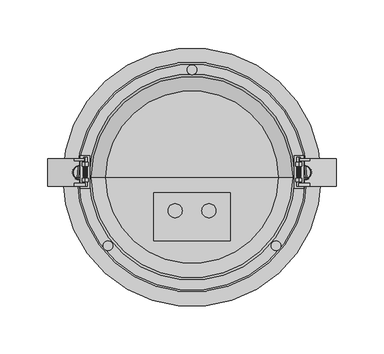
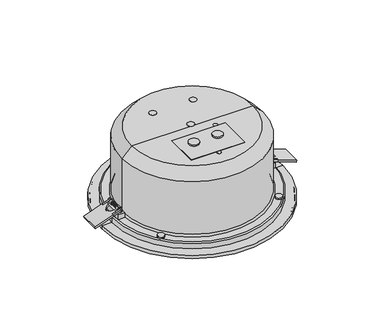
"""IFC4 building model written with IfcOpenShell, lengths in millimetres: proxy geometry, 221216 BIM Data_DL-SE20-200T-EN54 : DL-SE 20-200/T-EN54."""

from ifc_helpers import new_model, si_unit, point, frame, frame_2d, origin, origin_with_axes, origin_2d, place, context, project, spatial, polyline, circle_curve, ellipse_curve, trimmed, segment, composite_curve, outline, extrude, source, transform, mapped, element, save
from ifc_brep_helpers import plane_surface, cylinder_surface, revolved_surface, advanced_brep


def communication_devices_1a25a5fd(model_context):
    return source(origin(), model_context, "Body", "SolidModel", [
        extrude(outline(polyline([(15.4609827, 0.0), (15.4609827, -2.1737459), (3.366834, -2.1737459), (3.366834, 0.0), (15.4609827, 0.0)])), frame((-125.5161348, 19.0480556, 19.4983454), z_axis=(-0.33142854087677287, 0.0, 0.9434803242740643), x_axis=(0.9434803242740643, 0.0, 0.33142854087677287)), (0.0, 0.0, 1.0), 2.9860826),
        extrude(outline(polyline([(15.5825119, -28.3903286), (3.520211, -28.3903286), (3.520211, -25.5915826), (15.5825119, -25.5915826), (15.5825119, -28.3903286)])), frame((-125.5161348, 19.0480556, 19.4983454), z_axis=(-0.33142854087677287, 0.0, 0.9434803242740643), x_axis=(0.9434803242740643, 0.0, 0.33142854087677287)), (0.0, 0.0, 1.0), 2.9860826),
        extrude(outline(composite_curve([segment(polyline([(-3.1168591, 0.0), (-3.1168591, -34.6971322), (-9.9918591, -34.6971322)]), True, "CONTINUOUS"), segment(trimmed(circle_curve(frame_2d((-17.4918591, -34.6971322)), 7.5), [point((-9.9918591, -34.6971322))], [point((-24.9918591, -34.6971322))], True, "CARTESIAN"), True, "CONTINUOUS"), segment(polyline([(-24.9918591, -34.6971322), (-31.5071877, -34.6971322), (-31.5071877, 0.0), (-3.1168591, 0.0)]), True, "CONTINUOUS")], self_intersect=False)), frame((-149.7019059, 22.1649147, 11.0022967), z_axis=(-0.33142854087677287, 0.0, 0.9434803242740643), x_axis=(0.0, 1.0, 0.0)), (0.0, 0.0, 1.0), 2.9860826),
        extrude(outline(polyline([(-107.0368173, -11.842273), (-117.0368173, -11.842273), (-117.0368173, 22.1730556), (-107.0368173, 22.1730556), (-107.0368173, -11.842273)])), frame((0.0, 0.0, 15.1034024), z_axis=(0.0, 0.0, 1.0), x_axis=(1.0, 0.0, 0.0)), (0.0, 0.0, 1.0), 7.5348139),
        advanced_brep(
        [(-111.4871576, -0.9236243, 22.5267111), (-111.4871576, -0.9236243, 28.744995), (-111.4871576, -4.9366566, 28.744995), (-111.4871576, -4.9366566, 22.5267111), (-111.4871576, -4.9366566, 27.5535795), (-111.4871576, -4.9366566, 23.7181266), (-111.4871576, -9.6311377, 27.5535795), (-111.4871576, -9.6311377, 23.7181266), (-111.4871576, -9.6311377, 25.635853), (-111.4871576, 20.7938537, 25.635853), (-111.4871576, 20.7938537, 27.5535795), (-111.4871576, 20.7938537, 23.7181266), (-111.4871576, 15.3862869, 27.5535795), (-111.4871576, 15.3862869, 23.7181266), (-111.4871576, 15.3862869, 28.744995), (-111.4871576, 15.3862869, 22.5267111), (-111.4871576, 11.4071029, 28.744995), (-111.4871576, 11.4071029, 22.5267111), (-111.4871576, 11.4071029, 26.5290407), (-111.4871576, 11.4071029, 24.7426654), (-111.4871576, -0.9236243, 26.5290407), (-111.4871576, -0.9236243, 24.7426654)],
        [
            (0, 1, circle_curve(frame((-111.4871576, -0.9236243, 25.635853), z_axis=(0.0, -1.0, 0.0), x_axis=(0.0, 0.0, 1.0)), 3.109142)),
            (1, 2),
            (2, 3, circle_curve(frame((-111.4871576, -4.9366566, 25.635853), z_axis=(0.0, 1.0, 0.0), x_axis=(0.0, 0.0, 1.0)), 3.109142)),
            (3, 0),
            (1, 0, circle_curve(frame((-111.4871576, -0.9236243, 25.635853), z_axis=(0.0, -1.0, 0.0), x_axis=(0.0, 0.0, 1.0)), 3.109142)),
            (3, 2, circle_curve(frame((-111.4871576, -4.9366566, 25.635853), z_axis=(0.0, 1.0, 0.0), x_axis=(0.0, 0.0, 1.0)), 3.109142)),
            (2, 4),
            (4, 5, circle_curve(frame((-111.4871576, -4.9366566, 25.635853), z_axis=(0.0, 1.0, 0.0), x_axis=(0.0, 0.0, 1.0)), 1.9177265)),
            (5, 3),
            (5, 4, circle_curve(frame((-111.4871576, -4.9366566, 25.635853), z_axis=(0.0, 1.0, 0.0), x_axis=(0.0, 0.0, 1.0)), 1.9177265)),
            (4, 6),
            (6, 7, circle_curve(frame((-111.4871576, -9.6311377, 25.635853), z_axis=(0.0, 1.0, 0.0), x_axis=(0.0, 0.0, 1.0)), 1.9177265)),
            (7, 5),
            (7, 6, circle_curve(frame((-111.4871576, -9.6311377, 25.635853), z_axis=(0.0, 1.0, 0.0), x_axis=(0.0, 0.0, 1.0)), 1.9177265)),
            (6, 8),
            (8, 7),
            (9, 10),
            (10, 11, circle_curve(frame((-111.4871576, 20.7938537, 25.635853), z_axis=(0.0, 1.0, 0.0), x_axis=(0.0, 0.0, 1.0)), 1.9177265)),
            (11, 9),
            (11, 10, circle_curve(frame((-111.4871576, 20.7938537, 25.635853), z_axis=(0.0, 1.0, 0.0), x_axis=(0.0, 0.0, 1.0)), 1.9177265)),
            (10, 12),
            (12, 13, circle_curve(frame((-111.4871576, 15.3862869, 25.635853), z_axis=(0.0, 1.0, 0.0), x_axis=(0.0, 0.0, 1.0)), 1.9177265)),
            (13, 11),
            (13, 12, circle_curve(frame((-111.4871576, 15.3862869, 25.635853), z_axis=(0.0, 1.0, 0.0), x_axis=(0.0, 0.0, 1.0)), 1.9177265)),
            (12, 14),
            (14, 15, circle_curve(frame((-111.4871576, 15.3862869, 25.635853), z_axis=(0.0, 1.0, 0.0), x_axis=(0.0, 0.0, 1.0)), 3.109142)),
            (15, 13),
            (15, 14, circle_curve(frame((-111.4871576, 15.3862869, 25.635853), z_axis=(0.0, 1.0, 0.0), x_axis=(0.0, 0.0, 1.0)), 3.109142)),
            (14, 16),
            (16, 17, circle_curve(frame((-111.4871576, 11.4071029, 25.635853), z_axis=(0.0, 1.0, 0.0), x_axis=(0.0, 0.0, 1.0)), 3.109142)),
            (17, 15),
            (17, 16, circle_curve(frame((-111.4871576, 11.4071029, 25.635853), z_axis=(0.0, 1.0, 0.0), x_axis=(0.0, 0.0, 1.0)), 3.109142)),
            (16, 18),
            (18, 19, circle_curve(frame((-111.4871576, 11.4071029, 25.635853), z_axis=(0.0, 1.0, 0.0), x_axis=(0.0, 0.0, 1.0)), 0.8931877)),
            (19, 17),
            (19, 18, circle_curve(frame((-111.4871576, 11.4071029, 25.635853), z_axis=(0.0, 1.0, 0.0), x_axis=(0.0, 0.0, 1.0)), 0.8931877)),
            (18, 20),
            (20, 21, circle_curve(frame((-111.4871576, -0.9236243, 25.635853), z_axis=(0.0, 1.0, 0.0), x_axis=(0.0, 0.0, 1.0)), 0.8931877)),
            (21, 19),
            (21, 20, circle_curve(frame((-111.4871576, -0.9236243, 25.635853), z_axis=(0.0, 1.0, 0.0), x_axis=(0.0, 0.0, 1.0)), 0.8931877)),
            (20, 1),
            (0, 21),
        ],
        [
            cylinder_surface(frame((-111.4871576, 4.5413883, 25.635853), z_axis=(0.0, 1.0, 0.0), x_axis=(0.0, 0.0, 1.0)), 3.109142),
            plane_surface(frame((-111.4871576, -4.9366566, 25.635853), z_axis=(0.0, -1.0, 0.0), x_axis=(0.0, 0.0, 1.0))),
            cylinder_surface(frame((-111.4871576, 4.5413883, 25.635853), z_axis=(0.0, 1.0, 0.0), x_axis=(0.0, 0.0, 1.0)), 1.9177265),
            plane_surface(frame((-111.4871576, -9.6311377, 25.635853), z_axis=(0.0, -1.0, 0.0), x_axis=(0.0, 0.0, 1.0))),
            plane_surface(frame((-111.4871576, 20.7938537, 25.635853), z_axis=(0.0, 1.0, 0.0), x_axis=(0.0, 0.0, 1.0))),
            plane_surface(frame((-111.4871576, 15.3862869, 25.635853), z_axis=(0.0, 1.0, 0.0), x_axis=(0.0, 0.0, 1.0))),
            plane_surface(frame((-111.4871576, 11.4071029, 25.635853), z_axis=(0.0, -1.0, 0.0), x_axis=(0.0, 0.0, 1.0))),
            cylinder_surface(frame((-111.4871576, 4.5413883, 25.635853), z_axis=(0.0, 1.0, 0.0), x_axis=(0.0, 0.0, 1.0)), 0.8931877),
            plane_surface(frame((-111.4871576, -0.9236243, 25.635853), z_axis=(0.0, 1.0, 0.0), x_axis=(0.0, 0.0, 1.0))),
        ],
        [
            (0, [[1, 2, 3, 4]]),
            (0, [[5, -4, 6, -2]]),
            (1, [[-3, 7, 8, 9]]),
            (1, [[-6, -9, 10, -7]]),
            (2, [[-8, 11, 12, 13]]),
            (2, [[-10, -13, 14, -11]]),
            (3, [[-12, 15, 16]]),
            (3, [[-14, -16, -15]]),
            (4, [[17, 18, 19]]),
            (4, [[-19, 20, -17]]),
            (2, [[-18, 21, 22, 23]]),
            (2, [[-20, -23, 24, -21]]),
            (5, [[-22, 25, 26, 27]]),
            (5, [[-24, -27, 28, -25]]),
            (0, [[-26, 29, 30, 31]]),
            (0, [[-28, -31, 32, -29]]),
            (6, [[-30, 33, 34, 35]]),
            (6, [[-32, -35, 36, -33]]),
            (7, [[-34, 37, 38, 39]]),
            (7, [[-36, -39, 40, -37]]),
            (8, [[-38, 41, -1, 42]]),
            (8, [[-40, -42, -5, -41]]),
        ],
    ),
        extrude(outline(composite_curve([segment(trimmed(circle_curve(frame_2d((25.7629558, -111.4710507)), 2.2114931), [point((25.7629558, -113.6825438))], [point((25.7629558, -109.2595577))], False, "CARTESIAN"), True, "CONTINUOUS"), segment(trimmed(circle_curve(frame_2d((25.7629558, -111.4710507)), 2.2114931), [point((25.7629558, -109.2595577))], [point((25.7629558, -113.6825438))], False, "CARTESIAN"), True, "CONTINUOUS")], self_intersect=False), holes=[composite_curve([segment(trimmed(circle_curve(frame_2d((25.7629558, -111.4710507)), 1.6197878), [point((25.7629558, -113.0908386))], [point((25.7629558, -109.8512629))], True, "CARTESIAN"), True, "CONTINUOUS"), segment(trimmed(circle_curve(frame_2d((25.7629558, -111.4710507)), 1.6197878), [point((25.7629558, -109.8512629))], [point((25.7629558, -113.0908386))], True, "CARTESIAN"), True, "CONTINUOUS")], self_intersect=False)]), frame((0.0, 9.6929722, 0.0), z_axis=(0.0, 1.0, 0.0), x_axis=(0.0, 0.0, 1.0)), (0.0, 0.0, 1.0), 0.7554192),
        extrude(outline(composite_curve([segment(trimmed(circle_curve(frame_2d((25.7629558, -111.4710507)), 2.2114931), [point((25.7629558, -113.6825438))], [point((25.7629558, -109.2595577))], False, "CARTESIAN"), True, "CONTINUOUS"), segment(trimmed(circle_curve(frame_2d((25.7629558, -111.4710507)), 2.2114931), [point((25.7629558, -109.2595577))], [point((25.7629558, -113.6825438))], False, "CARTESIAN"), True, "CONTINUOUS")], self_intersect=False), holes=[composite_curve([segment(trimmed(circle_curve(frame_2d((25.7629558, -111.4710507)), 1.6197878), [point((25.7629558, -113.0908386))], [point((25.7629558, -109.8512629))], True, "CARTESIAN"), True, "CONTINUOUS"), segment(trimmed(circle_curve(frame_2d((25.7629558, -111.4710507)), 1.6197878), [point((25.7629558, -109.8512629))], [point((25.7629558, -113.0908386))], True, "CARTESIAN"), True, "CONTINUOUS")], self_intersect=False)]), frame((0.0, 8.6626554, 0.0), z_axis=(0.0, 1.0, 0.0), x_axis=(0.0, 0.0, 1.0)), (0.0, 0.0, 1.0), 0.7554192),
        extrude(outline(composite_curve([segment(trimmed(circle_curve(frame_2d((25.7629558, -111.4710507)), 2.2114931), [point((25.7629558, -113.6825438))], [point((25.7629558, -109.2595577))], False, "CARTESIAN"), True, "CONTINUOUS"), segment(trimmed(circle_curve(frame_2d((25.7629558, -111.4710507)), 2.2114931), [point((25.7629558, -109.2595577))], [point((25.7629558, -113.6825438))], False, "CARTESIAN"), True, "CONTINUOUS")], self_intersect=False), holes=[composite_curve([segment(trimmed(circle_curve(frame_2d((25.7629558, -111.4710507)), 1.6197878), [point((25.7629558, -113.0908386))], [point((25.7629558, -109.8512629))], True, "CARTESIAN"), True, "CONTINUOUS"), segment(trimmed(circle_curve(frame_2d((25.7629558, -111.4710507)), 1.6197878), [point((25.7629558, -109.8512629))], [point((25.7629558, -113.0908386))], True, "CARTESIAN"), True, "CONTINUOUS")], self_intersect=False)]), frame((0.0, 7.6323387, 0.0), z_axis=(0.0, 1.0, 0.0), x_axis=(0.0, 0.0, 1.0)), (0.0, 0.0, 1.0), 0.7554192),
        extrude(outline(composite_curve([segment(trimmed(circle_curve(frame_2d((25.7629558, -111.4710507)), 2.2114931), [point((25.7629558, -113.6825438))], [point((25.7629558, -109.2595577))], False, "CARTESIAN"), True, "CONTINUOUS"), segment(trimmed(circle_curve(frame_2d((25.7629558, -111.4710507)), 2.2114931), [point((25.7629558, -109.2595577))], [point((25.7629558, -113.6825438))], False, "CARTESIAN"), True, "CONTINUOUS")], self_intersect=False), holes=[composite_curve([segment(trimmed(circle_curve(frame_2d((25.7629558, -111.4710507)), 1.6197878), [point((25.7629558, -113.0908386))], [point((25.7629558, -109.8512629))], True, "CARTESIAN"), True, "CONTINUOUS"), segment(trimmed(circle_curve(frame_2d((25.7629558, -111.4710507)), 1.6197878), [point((25.7629558, -109.8512629))], [point((25.7629558, -113.0908386))], True, "CARTESIAN"), True, "CONTINUOUS")], self_intersect=False)]), frame((0.0, 6.6020219, 0.0), z_axis=(0.0, 1.0, 0.0), x_axis=(0.0, 0.0, 1.0)), (0.0, 0.0, 1.0), 0.7554192),
        extrude(outline(composite_curve([segment(trimmed(circle_curve(frame_2d((25.7629558, -111.4710507)), 2.2114931), [point((25.7629558, -113.6825438))], [point((25.7629558, -109.2595577))], False, "CARTESIAN"), True, "CONTINUOUS"), segment(trimmed(circle_curve(frame_2d((25.7629558, -111.4710507)), 2.2114931), [point((25.7629558, -109.2595577))], [point((25.7629558, -113.6825438))], False, "CARTESIAN"), True, "CONTINUOUS")], self_intersect=False), holes=[composite_curve([segment(trimmed(circle_curve(frame_2d((25.7629558, -111.4710507)), 1.6197878), [point((25.7629558, -113.0908386))], [point((25.7629558, -109.8512629))], True, "CARTESIAN"), True, "CONTINUOUS"), segment(trimmed(circle_curve(frame_2d((25.7629558, -111.4710507)), 1.6197878), [point((25.7629558, -109.8512629))], [point((25.7629558, -113.0908386))], True, "CARTESIAN"), True, "CONTINUOUS")], self_intersect=False)]), frame((0.0, 5.5717051, 0.0), z_axis=(0.0, 1.0, 0.0), x_axis=(0.0, 0.0, 1.0)), (0.0, 0.0, 1.0), 0.7554192),
        extrude(outline(composite_curve([segment(trimmed(circle_curve(frame_2d((25.7629558, -111.4710507)), 2.2114931), [point((25.7629558, -113.6825438))], [point((25.7629558, -109.2595577))], False, "CARTESIAN"), True, "CONTINUOUS"), segment(trimmed(circle_curve(frame_2d((25.7629558, -111.4710507)), 2.2114931), [point((25.7629558, -109.2595577))], [point((25.7629558, -113.6825438))], False, "CARTESIAN"), True, "CONTINUOUS")], self_intersect=False), holes=[composite_curve([segment(trimmed(circle_curve(frame_2d((25.7629558, -111.4710507)), 1.6197878), [point((25.7629558, -113.0908386))], [point((25.7629558, -109.8512629))], True, "CARTESIAN"), True, "CONTINUOUS"), segment(trimmed(circle_curve(frame_2d((25.7629558, -111.4710507)), 1.6197878), [point((25.7629558, -109.8512629))], [point((25.7629558, -113.0908386))], True, "CARTESIAN"), True, "CONTINUOUS")], self_intersect=False)]), frame((0.0, 4.5413883, 0.0), z_axis=(0.0, 1.0, 0.0), x_axis=(0.0, 0.0, 1.0)), (0.0, 0.0, 1.0), 0.7554192),
        extrude(outline(composite_curve([segment(trimmed(circle_curve(frame_2d((25.7629558, -111.4710507)), 2.2114931), [point((25.7629558, -113.6825438))], [point((25.7629558, -109.2595577))], False, "CARTESIAN"), True, "CONTINUOUS"), segment(trimmed(circle_curve(frame_2d((25.7629558, -111.4710507)), 2.2114931), [point((25.7629558, -109.2595577))], [point((25.7629558, -113.6825438))], False, "CARTESIAN"), True, "CONTINUOUS")], self_intersect=False), holes=[composite_curve([segment(trimmed(circle_curve(frame_2d((25.7629558, -111.4710507)), 1.6197878), [point((25.7629558, -113.0908386))], [point((25.7629558, -109.8512629))], True, "CARTESIAN"), True, "CONTINUOUS"), segment(trimmed(circle_curve(frame_2d((25.7629558, -111.4710507)), 1.6197878), [point((25.7629558, -109.8512629))], [point((25.7629558, -113.0908386))], True, "CARTESIAN"), True, "CONTINUOUS")], self_intersect=False)]), frame((0.0, 3.5110715, 0.0), z_axis=(0.0, 1.0, 0.0), x_axis=(0.0, 0.0, 1.0)), (0.0, 0.0, 1.0), 0.7554192),
        extrude(outline(composite_curve([segment(trimmed(circle_curve(frame_2d((25.7629558, -111.4710507)), 2.2114931), [point((25.7629558, -113.6825438))], [point((25.7629558, -109.2595577))], False, "CARTESIAN"), True, "CONTINUOUS"), segment(trimmed(circle_curve(frame_2d((25.7629558, -111.4710507)), 2.2114931), [point((25.7629558, -109.2595577))], [point((25.7629558, -113.6825438))], False, "CARTESIAN"), True, "CONTINUOUS")], self_intersect=False), holes=[composite_curve([segment(trimmed(circle_curve(frame_2d((25.7629558, -111.4710507)), 1.6197878), [point((25.7629558, -113.0908386))], [point((25.7629558, -109.8512629))], True, "CARTESIAN"), True, "CONTINUOUS"), segment(trimmed(circle_curve(frame_2d((25.7629558, -111.4710507)), 1.6197878), [point((25.7629558, -109.8512629))], [point((25.7629558, -113.0908386))], True, "CARTESIAN"), True, "CONTINUOUS")], self_intersect=False)]), frame((0.0, 2.4807547, 0.0), z_axis=(0.0, 1.0, 0.0), x_axis=(0.0, 0.0, 1.0)), (0.0, 0.0, 1.0), 0.7554192),
        extrude(outline(composite_curve([segment(trimmed(circle_curve(frame_2d((25.7629558, -111.4710507)), 2.2114931), [point((25.7629558, -113.6825438))], [point((25.7629558, -109.2595577))], False, "CARTESIAN"), True, "CONTINUOUS"), segment(trimmed(circle_curve(frame_2d((25.7629558, -111.4710507)), 2.2114931), [point((25.7629558, -109.2595577))], [point((25.7629558, -113.6825438))], False, "CARTESIAN"), True, "CONTINUOUS")], self_intersect=False), holes=[composite_curve([segment(trimmed(circle_curve(frame_2d((25.7629558, -111.4710507)), 1.6197878), [point((25.7629558, -113.0908386))], [point((25.7629558, -109.8512629))], True, "CARTESIAN"), True, "CONTINUOUS"), segment(trimmed(circle_curve(frame_2d((25.7629558, -111.4710507)), 1.6197878), [point((25.7629558, -109.8512629))], [point((25.7629558, -113.0908386))], True, "CARTESIAN"), True, "CONTINUOUS")], self_intersect=False)]), frame((0.0, 1.4504379, 0.0), z_axis=(0.0, 1.0, 0.0), x_axis=(0.0, 0.0, 1.0)), (0.0, 0.0, 1.0), 0.7554192),
        extrude(outline(composite_curve([segment(trimmed(circle_curve(frame_2d((25.7629558, -111.4710507)), 2.2114931), [point((25.7629558, -113.6825438))], [point((25.7629558, -109.2595577))], False, "CARTESIAN"), True, "CONTINUOUS"), segment(trimmed(circle_curve(frame_2d((25.7629558, -111.4710507)), 2.2114931), [point((25.7629558, -109.2595577))], [point((25.7629558, -113.6825438))], False, "CARTESIAN"), True, "CONTINUOUS")], self_intersect=False), holes=[composite_curve([segment(trimmed(circle_curve(frame_2d((25.7629558, -111.4710507)), 1.6197878), [point((25.7629558, -113.0908386))], [point((25.7629558, -109.8512629))], True, "CARTESIAN"), True, "CONTINUOUS"), segment(trimmed(circle_curve(frame_2d((25.7629558, -111.4710507)), 1.6197878), [point((25.7629558, -109.8512629))], [point((25.7629558, -113.0908386))], True, "CARTESIAN"), True, "CONTINUOUS")], self_intersect=False)]), frame((0.0, 0.4201212, 0.0), z_axis=(0.0, 1.0, 0.0), x_axis=(0.0, 0.0, 1.0)), (0.0, 0.0, 1.0), 0.7554192),
        extrude(outline(composite_curve([segment(trimmed(circle_curve(frame_2d((25.7629558, -111.4710507)), 2.2114931), [point((25.7629558, -113.6825438))], [point((25.7629558, -109.2595577))], False, "CARTESIAN"), True, "CONTINUOUS"), segment(trimmed(circle_curve(frame_2d((25.7629558, -111.4710507)), 2.2114931), [point((25.7629558, -109.2595577))], [point((25.7629558, -113.6825438))], False, "CARTESIAN"), True, "CONTINUOUS")], self_intersect=False), holes=[composite_curve([segment(trimmed(circle_curve(frame_2d((25.7629558, -111.4710507)), 1.6197878), [point((25.7629558, -113.0908386))], [point((25.7629558, -109.8512629))], True, "CARTESIAN"), True, "CONTINUOUS"), segment(trimmed(circle_curve(frame_2d((25.7629558, -111.4710507)), 1.6197878), [point((25.7629558, -109.8512629))], [point((25.7629558, -113.0908386))], True, "CARTESIAN"), True, "CONTINUOUS")], self_intersect=False)]), frame((0.0, 0.4201212, 0.0), z_axis=(0.0, 1.0, 0.0), x_axis=(0.0, 0.0, 1.0)), (0.0, 0.0, 1.0), 0.7554192),
        extrude(outline(polyline([(-3.125, 0.0), (-3.125, -12.0941488), (-5.2987459, -12.0941488), (-5.2987459, 0.0), (-3.125, 0.0)])), frame((110.9290018, 22.1730556, 24.6225564), z_axis=(0.33142854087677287, 0.0, 0.9434803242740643), x_axis=(0.0, 1.0, 0.0)), (0.0, 0.0, 1.0), 2.9860826),
        extrude(outline(polyline([(-31.5153286, 0.1215292), (-28.7165826, 0.1215292), (-28.7165826, -11.9407718), (-31.5153286, -11.9407718), (-31.5153286, 0.1215292)])), frame((110.9290018, 22.1730556, 24.6225564), z_axis=(0.33142854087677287, 0.0, 0.9434803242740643), x_axis=(0.0, 1.0, 0.0)), (0.0, 0.0, 1.0), 2.9860826),
        extrude(outline(composite_curve([segment(polyline([(30.0096322, 0.0), (30.0096322, -28.3903286), (-4.6875, -28.3903286), (-4.6875, -21.875)]), True, "CONTINUOUS"), segment(trimmed(circle_curve(frame_2d((-4.6875, -14.375)), 7.5), [point((-4.6875, -21.875))], [point((-4.6875, -6.875))], True, "CARTESIAN"), True, "CONTINUOUS"), segment(polyline([(-4.6875, -6.875), (-4.6875, 0.0), (30.0096322, 0.0)]), True, "CONTINUOUS")], self_intersect=False)), frame((121.3884084, 19.0480556, 20.9483453), z_axis=(0.33142854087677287, 0.0, 0.9434803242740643), x_axis=(0.9434803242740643, 0.0, -0.33142854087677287)), (0.0, 0.0, 1.0), 2.9860826),
        extrude(outline(polyline([(117.0368173, -11.842273), (107.0368173, -11.842273), (107.0368173, 22.1730556), (117.0368173, 22.1730556), (117.0368173, -11.842273)])), frame((0.0, 0.0, 15.1034024), z_axis=(0.0, 0.0, 1.0), x_axis=(1.0, 0.0, 0.0)), (0.0, 0.0, 1.0), 7.5348139),
        advanced_brep(
        [(111.4871576, -4.9366566, 22.5267111), (111.4871576, -4.9366566, 28.744995), (111.4871576, -0.9236243, 28.744995), (111.4871576, -0.9236243, 22.5267111), (111.4871576, -4.9366566, 23.7181266), (111.4871576, -4.9366566, 27.5535795), (111.4871576, -9.6311377, 23.7181266), (111.4871576, -9.6311377, 27.5535795), (111.4871576, -9.6311377, 25.635853), (111.4871576, 20.7938537, 23.7181266), (111.4871576, 20.7938537, 27.5535795), (111.4871576, 20.7938537, 25.635853), (111.4871576, 15.3862869, 23.7181266), (111.4871576, 15.3862869, 27.5535795), (111.4871576, 15.3862869, 22.5267111), (111.4871576, 15.3862869, 28.744995), (111.4871576, 11.4071029, 22.5267111), (111.4871576, 11.4071029, 28.744995), (111.4871576, 11.4071029, 24.7426654), (111.4871576, 11.4071029, 26.5290407), (111.4871576, -0.9236243, 24.7426654), (111.4871576, -0.9236243, 26.5290407)],
        [
            (0, 1, circle_curve(frame((111.4871576, -4.9366566, 25.635853), z_axis=(0.0, 1.0, 0.0), x_axis=(0.0, 0.0, 1.0)), 3.109142)),
            (1, 2),
            (2, 3, circle_curve(frame((111.4871576, -0.9236243, 25.635853), z_axis=(0.0, -1.0, 0.0), x_axis=(0.0, 0.0, 1.0)), 3.109142)),
            (3, 0),
            (1, 0, circle_curve(frame((111.4871576, -4.9366566, 25.635853), z_axis=(0.0, 1.0, 0.0), x_axis=(0.0, 0.0, 1.0)), 3.109142)),
            (3, 2, circle_curve(frame((111.4871576, -0.9236243, 25.635853), z_axis=(0.0, -1.0, 0.0), x_axis=(0.0, 0.0, 1.0)), 3.109142)),
            (4, 5, circle_curve(frame((111.4871576, -4.9366566, 25.635853), z_axis=(0.0, 1.0, 0.0), x_axis=(0.0, 0.0, 1.0)), 1.9177265)),
            (5, 1),
            (0, 4),
            (5, 4, circle_curve(frame((111.4871576, -4.9366566, 25.635853), z_axis=(0.0, 1.0, 0.0), x_axis=(0.0, 0.0, 1.0)), 1.9177265)),
            (6, 7, circle_curve(frame((111.4871576, -9.6311377, 25.635853), z_axis=(0.0, 1.0, 0.0), x_axis=(0.0, 0.0, 1.0)), 1.9177265)),
            (7, 5),
            (4, 6),
            (7, 6, circle_curve(frame((111.4871576, -9.6311377, 25.635853), z_axis=(0.0, 1.0, 0.0), x_axis=(0.0, 0.0, 1.0)), 1.9177265)),
            (8, 7),
            (6, 8),
            (9, 10, circle_curve(frame((111.4871576, 20.7938537, 25.635853), z_axis=(0.0, 1.0, 0.0), x_axis=(0.0, 0.0, 1.0)), 1.9177265)),
            (10, 11),
            (11, 9),
            (10, 9, circle_curve(frame((111.4871576, 20.7938537, 25.635853), z_axis=(0.0, 1.0, 0.0), x_axis=(0.0, 0.0, 1.0)), 1.9177265)),
            (12, 13, circle_curve(frame((111.4871576, 15.3862869, 25.635853), z_axis=(0.0, 1.0, 0.0), x_axis=(0.0, 0.0, 1.0)), 1.9177265)),
            (13, 10),
            (9, 12),
            (13, 12, circle_curve(frame((111.4871576, 15.3862869, 25.635853), z_axis=(0.0, 1.0, 0.0), x_axis=(0.0, 0.0, 1.0)), 1.9177265)),
            (14, 15, circle_curve(frame((111.4871576, 15.3862869, 25.635853), z_axis=(0.0, 1.0, 0.0), x_axis=(0.0, 0.0, 1.0)), 3.109142)),
            (15, 13),
            (12, 14),
            (15, 14, circle_curve(frame((111.4871576, 15.3862869, 25.635853), z_axis=(0.0, 1.0, 0.0), x_axis=(0.0, 0.0, 1.0)), 3.109142)),
            (16, 17, circle_curve(frame((111.4871576, 11.4071029, 25.635853), z_axis=(0.0, 1.0, 0.0), x_axis=(0.0, 0.0, 1.0)), 3.109142)),
            (17, 15),
            (14, 16),
            (17, 16, circle_curve(frame((111.4871576, 11.4071029, 25.635853), z_axis=(0.0, 1.0, 0.0), x_axis=(0.0, 0.0, 1.0)), 3.109142)),
            (18, 19, circle_curve(frame((111.4871576, 11.4071029, 25.635853), z_axis=(0.0, 1.0, 0.0), x_axis=(0.0, 0.0, 1.0)), 0.8931877)),
            (19, 17),
            (16, 18),
            (19, 18, circle_curve(frame((111.4871576, 11.4071029, 25.635853), z_axis=(0.0, 1.0, 0.0), x_axis=(0.0, 0.0, 1.0)), 0.8931877)),
            (20, 21, circle_curve(frame((111.4871576, -0.9236243, 25.635853), z_axis=(0.0, 1.0, 0.0), x_axis=(0.0, 0.0, 1.0)), 0.8931877)),
            (21, 19),
            (18, 20),
            (21, 20, circle_curve(frame((111.4871576, -0.9236243, 25.635853), z_axis=(0.0, 1.0, 0.0), x_axis=(0.0, 0.0, 1.0)), 0.8931877)),
            (2, 21),
            (20, 3),
        ],
        [
            cylinder_surface(frame((111.4871576, 4.5413883, 25.635853), z_axis=(0.0, -1.0, 0.0), x_axis=(0.0, 0.0, 1.0)), 3.109142),
            plane_surface(frame((111.4871576, -4.9366566, 25.635853), z_axis=(0.0, -1.0, 0.0), x_axis=(0.0, 0.0, 1.0))),
            cylinder_surface(frame((111.4871576, 4.5413883, 25.635853), z_axis=(0.0, -1.0, 0.0), x_axis=(0.0, 0.0, 1.0)), 1.9177265),
            plane_surface(frame((111.4871576, -9.6311377, 25.635853), z_axis=(0.0, -1.0, 0.0), x_axis=(0.0, 0.0, 1.0))),
            plane_surface(frame((111.4871576, 20.7938537, 25.635853), z_axis=(0.0, 1.0, 0.0), x_axis=(0.0, 0.0, 1.0))),
            plane_surface(frame((111.4871576, 15.3862869, 25.635853), z_axis=(0.0, 1.0, 0.0), x_axis=(0.0, 0.0, 1.0))),
            plane_surface(frame((111.4871576, 11.4071029, 25.635853), z_axis=(0.0, -1.0, 0.0), x_axis=(0.0, 0.0, 1.0))),
            cylinder_surface(frame((111.4871576, 4.5413883, 25.635853), z_axis=(0.0, -1.0, 0.0), x_axis=(0.0, 0.0, 1.0)), 0.8931877),
            plane_surface(frame((111.4871576, -0.9236243, 25.635853), z_axis=(0.0, 1.0, 0.0), x_axis=(0.0, 0.0, 1.0))),
        ],
        [
            (0, [[1, 2, 3, 4]]),
            (0, [[5, -4, 6, -2]]),
            (1, [[7, 8, -1, 9]]),
            (1, [[10, -9, -5, -8]]),
            (2, [[11, 12, -7, 13]]),
            (2, [[14, -13, -10, -12]]),
            (3, [[15, -11, 16]]),
            (3, [[-16, -14, -15]]),
            (4, [[17, 18, 19]]),
            (4, [[20, -19, -18]]),
            (2, [[21, 22, -17, 23]]),
            (2, [[24, -23, -20, -22]]),
            (5, [[25, 26, -21, 27]]),
            (5, [[28, -27, -24, -26]]),
            (0, [[29, 30, -25, 31]]),
            (0, [[32, -31, -28, -30]]),
            (6, [[33, 34, -29, 35]]),
            (6, [[36, -35, -32, -34]]),
            (7, [[37, 38, -33, 39]]),
            (7, [[40, -39, -36, -38]]),
            (8, [[-3, 41, -37, 42]]),
            (8, [[-6, -42, -40, -41]]),
        ],
    ),
        extrude(outline(composite_curve([segment(trimmed(circle_curve(frame_2d((25.7629558, 111.4710507)), 2.2114931), [point((25.7629558, 113.6825438))], [point((25.7629558, 109.2595577))], False, "CARTESIAN"), True, "CONTINUOUS"), segment(trimmed(circle_curve(frame_2d((25.7629558, 111.4710507)), 2.2114931), [point((25.7629558, 109.2595577))], [point((25.7629558, 113.6825438))], False, "CARTESIAN"), True, "CONTINUOUS")], self_intersect=False), holes=[composite_curve([segment(trimmed(circle_curve(frame_2d((25.7629558, 111.4710507)), 1.6197878), [point((25.7629558, 113.0908386))], [point((25.7629558, 109.8512629))], True, "CARTESIAN"), True, "CONTINUOUS"), segment(trimmed(circle_curve(frame_2d((25.7629558, 111.4710507)), 1.6197878), [point((25.7629558, 109.8512629))], [point((25.7629558, 113.0908386))], True, "CARTESIAN"), True, "CONTINUOUS")], self_intersect=False)]), frame((0.0, 9.6929722, 0.0), z_axis=(0.0, 1.0, 0.0), x_axis=(0.0, 0.0, 1.0)), (0.0, 0.0, 1.0), 0.7554192),
        extrude(outline(composite_curve([segment(trimmed(circle_curve(frame_2d((25.7629558, 111.4710507)), 2.2114931), [point((25.7629558, 113.6825438))], [point((25.7629558, 109.2595577))], False, "CARTESIAN"), True, "CONTINUOUS"), segment(trimmed(circle_curve(frame_2d((25.7629558, 111.4710507)), 2.2114931), [point((25.7629558, 109.2595577))], [point((25.7629558, 113.6825438))], False, "CARTESIAN"), True, "CONTINUOUS")], self_intersect=False), holes=[composite_curve([segment(trimmed(circle_curve(frame_2d((25.7629558, 111.4710507)), 1.6197878), [point((25.7629558, 113.0908386))], [point((25.7629558, 109.8512629))], True, "CARTESIAN"), True, "CONTINUOUS"), segment(trimmed(circle_curve(frame_2d((25.7629558, 111.4710507)), 1.6197878), [point((25.7629558, 109.8512629))], [point((25.7629558, 113.0908386))], True, "CARTESIAN"), True, "CONTINUOUS")], self_intersect=False)]), frame((0.0, 8.6626554, 0.0), z_axis=(0.0, 1.0, 0.0), x_axis=(0.0, 0.0, 1.0)), (0.0, 0.0, 1.0), 0.7554192),
        extrude(outline(composite_curve([segment(trimmed(circle_curve(frame_2d((25.7629558, 111.4710507)), 2.2114931), [point((25.7629558, 113.6825438))], [point((25.7629558, 109.2595577))], False, "CARTESIAN"), True, "CONTINUOUS"), segment(trimmed(circle_curve(frame_2d((25.7629558, 111.4710507)), 2.2114931), [point((25.7629558, 109.2595577))], [point((25.7629558, 113.6825438))], False, "CARTESIAN"), True, "CONTINUOUS")], self_intersect=False), holes=[composite_curve([segment(trimmed(circle_curve(frame_2d((25.7629558, 111.4710507)), 1.6197878), [point((25.7629558, 113.0908386))], [point((25.7629558, 109.8512629))], True, "CARTESIAN"), True, "CONTINUOUS"), segment(trimmed(circle_curve(frame_2d((25.7629558, 111.4710507)), 1.6197878), [point((25.7629558, 109.8512629))], [point((25.7629558, 113.0908386))], True, "CARTESIAN"), True, "CONTINUOUS")], self_intersect=False)]), frame((0.0, 7.6323387, 0.0), z_axis=(0.0, 1.0, 0.0), x_axis=(0.0, 0.0, 1.0)), (0.0, 0.0, 1.0), 0.7554192),
        extrude(outline(composite_curve([segment(trimmed(circle_curve(frame_2d((25.7629558, 111.4710507)), 2.2114931), [point((25.7629558, 113.6825438))], [point((25.7629558, 109.2595577))], False, "CARTESIAN"), True, "CONTINUOUS"), segment(trimmed(circle_curve(frame_2d((25.7629558, 111.4710507)), 2.2114931), [point((25.7629558, 109.2595577))], [point((25.7629558, 113.6825438))], False, "CARTESIAN"), True, "CONTINUOUS")], self_intersect=False), holes=[composite_curve([segment(trimmed(circle_curve(frame_2d((25.7629558, 111.4710507)), 1.6197878), [point((25.7629558, 113.0908386))], [point((25.7629558, 109.8512629))], True, "CARTESIAN"), True, "CONTINUOUS"), segment(trimmed(circle_curve(frame_2d((25.7629558, 111.4710507)), 1.6197878), [point((25.7629558, 109.8512629))], [point((25.7629558, 113.0908386))], True, "CARTESIAN"), True, "CONTINUOUS")], self_intersect=False)]), frame((0.0, 6.6020219, 0.0), z_axis=(0.0, 1.0, 0.0), x_axis=(0.0, 0.0, 1.0)), (0.0, 0.0, 1.0), 0.7554192),
        extrude(outline(composite_curve([segment(trimmed(circle_curve(frame_2d((25.7629558, 111.4710507)), 2.2114931), [point((25.7629558, 113.6825438))], [point((25.7629558, 109.2595577))], False, "CARTESIAN"), True, "CONTINUOUS"), segment(trimmed(circle_curve(frame_2d((25.7629558, 111.4710507)), 2.2114931), [point((25.7629558, 109.2595577))], [point((25.7629558, 113.6825438))], False, "CARTESIAN"), True, "CONTINUOUS")], self_intersect=False), holes=[composite_curve([segment(trimmed(circle_curve(frame_2d((25.7629558, 111.4710507)), 1.6197878), [point((25.7629558, 113.0908386))], [point((25.7629558, 109.8512629))], True, "CARTESIAN"), True, "CONTINUOUS"), segment(trimmed(circle_curve(frame_2d((25.7629558, 111.4710507)), 1.6197878), [point((25.7629558, 109.8512629))], [point((25.7629558, 113.0908386))], True, "CARTESIAN"), True, "CONTINUOUS")], self_intersect=False)]), frame((0.0, 5.5717051, 0.0), z_axis=(0.0, 1.0, 0.0), x_axis=(0.0, 0.0, 1.0)), (0.0, 0.0, 1.0), 0.7554192),
        extrude(outline(composite_curve([segment(trimmed(circle_curve(frame_2d((25.7629558, 111.4710507)), 2.2114931), [point((25.7629558, 113.6825438))], [point((25.7629558, 109.2595577))], False, "CARTESIAN"), True, "CONTINUOUS"), segment(trimmed(circle_curve(frame_2d((25.7629558, 111.4710507)), 2.2114931), [point((25.7629558, 109.2595577))], [point((25.7629558, 113.6825438))], False, "CARTESIAN"), True, "CONTINUOUS")], self_intersect=False), holes=[composite_curve([segment(trimmed(circle_curve(frame_2d((25.7629558, 111.4710507)), 1.6197878), [point((25.7629558, 113.0908386))], [point((25.7629558, 109.8512629))], True, "CARTESIAN"), True, "CONTINUOUS"), segment(trimmed(circle_curve(frame_2d((25.7629558, 111.4710507)), 1.6197878), [point((25.7629558, 109.8512629))], [point((25.7629558, 113.0908386))], True, "CARTESIAN"), True, "CONTINUOUS")], self_intersect=False)]), frame((0.0, 4.5413883, 0.0), z_axis=(0.0, 1.0, 0.0), x_axis=(0.0, 0.0, 1.0)), (0.0, 0.0, 1.0), 0.7554192),
        extrude(outline(composite_curve([segment(trimmed(circle_curve(frame_2d((25.7629558, 111.4710507)), 2.2114931), [point((25.7629558, 113.6825438))], [point((25.7629558, 109.2595577))], False, "CARTESIAN"), True, "CONTINUOUS"), segment(trimmed(circle_curve(frame_2d((25.7629558, 111.4710507)), 2.2114931), [point((25.7629558, 109.2595577))], [point((25.7629558, 113.6825438))], False, "CARTESIAN"), True, "CONTINUOUS")], self_intersect=False), holes=[composite_curve([segment(trimmed(circle_curve(frame_2d((25.7629558, 111.4710507)), 1.6197878), [point((25.7629558, 113.0908386))], [point((25.7629558, 109.8512629))], True, "CARTESIAN"), True, "CONTINUOUS"), segment(trimmed(circle_curve(frame_2d((25.7629558, 111.4710507)), 1.6197878), [point((25.7629558, 109.8512629))], [point((25.7629558, 113.0908386))], True, "CARTESIAN"), True, "CONTINUOUS")], self_intersect=False)]), frame((0.0, 3.5110715, 0.0), z_axis=(0.0, 1.0, 0.0), x_axis=(0.0, 0.0, 1.0)), (0.0, 0.0, 1.0), 0.7554192),
        extrude(outline(composite_curve([segment(trimmed(circle_curve(frame_2d((25.7629558, 111.4710507)), 2.2114931), [point((25.7629558, 113.6825438))], [point((25.7629558, 109.2595577))], False, "CARTESIAN"), True, "CONTINUOUS"), segment(trimmed(circle_curve(frame_2d((25.7629558, 111.4710507)), 2.2114931), [point((25.7629558, 109.2595577))], [point((25.7629558, 113.6825438))], False, "CARTESIAN"), True, "CONTINUOUS")], self_intersect=False), holes=[composite_curve([segment(trimmed(circle_curve(frame_2d((25.7629558, 111.4710507)), 1.6197878), [point((25.7629558, 113.0908386))], [point((25.7629558, 109.8512629))], True, "CARTESIAN"), True, "CONTINUOUS"), segment(trimmed(circle_curve(frame_2d((25.7629558, 111.4710507)), 1.6197878), [point((25.7629558, 109.8512629))], [point((25.7629558, 113.0908386))], True, "CARTESIAN"), True, "CONTINUOUS")], self_intersect=False)]), frame((0.0, 2.4807547, 0.0), z_axis=(0.0, 1.0, 0.0), x_axis=(0.0, 0.0, 1.0)), (0.0, 0.0, 1.0), 0.7554192),
        extrude(outline(composite_curve([segment(trimmed(circle_curve(frame_2d((25.7629558, 111.4710507)), 2.2114931), [point((25.7629558, 113.6825438))], [point((25.7629558, 109.2595577))], False, "CARTESIAN"), True, "CONTINUOUS"), segment(trimmed(circle_curve(frame_2d((25.7629558, 111.4710507)), 2.2114931), [point((25.7629558, 109.2595577))], [point((25.7629558, 113.6825438))], False, "CARTESIAN"), True, "CONTINUOUS")], self_intersect=False), holes=[composite_curve([segment(trimmed(circle_curve(frame_2d((25.7629558, 111.4710507)), 1.6197878), [point((25.7629558, 113.0908386))], [point((25.7629558, 109.8512629))], True, "CARTESIAN"), True, "CONTINUOUS"), segment(trimmed(circle_curve(frame_2d((25.7629558, 111.4710507)), 1.6197878), [point((25.7629558, 109.8512629))], [point((25.7629558, 113.0908386))], True, "CARTESIAN"), True, "CONTINUOUS")], self_intersect=False)]), frame((0.0, 1.4504379, 0.0), z_axis=(0.0, 1.0, 0.0), x_axis=(0.0, 0.0, 1.0)), (0.0, 0.0, 1.0), 0.7554192),
        extrude(outline(composite_curve([segment(trimmed(circle_curve(frame_2d((25.7629558, 111.4710507)), 2.2114931), [point((25.7629558, 113.6825438))], [point((25.7629558, 109.2595577))], False, "CARTESIAN"), True, "CONTINUOUS"), segment(trimmed(circle_curve(frame_2d((25.7629558, 111.4710507)), 2.2114931), [point((25.7629558, 109.2595577))], [point((25.7629558, 113.6825438))], False, "CARTESIAN"), True, "CONTINUOUS")], self_intersect=False), holes=[composite_curve([segment(trimmed(circle_curve(frame_2d((25.7629558, 111.4710507)), 1.6197878), [point((25.7629558, 113.0908386))], [point((25.7629558, 109.8512629))], True, "CARTESIAN"), True, "CONTINUOUS"), segment(trimmed(circle_curve(frame_2d((25.7629558, 111.4710507)), 1.6197878), [point((25.7629558, 109.8512629))], [point((25.7629558, 113.0908386))], True, "CARTESIAN"), True, "CONTINUOUS")], self_intersect=False)]), frame((0.0, 0.4201212, 0.0), z_axis=(0.0, 1.0, 0.0), x_axis=(0.0, 0.0, 1.0)), (0.0, 0.0, 1.0), 0.7554192),
        extrude(outline(composite_curve([segment(trimmed(circle_curve(frame_2d((25.7629558, 111.4710507)), 2.2114931), [point((25.7629558, 113.6825438))], [point((25.7629558, 109.2595577))], False, "CARTESIAN"), True, "CONTINUOUS"), segment(trimmed(circle_curve(frame_2d((25.7629558, 111.4710507)), 2.2114931), [point((25.7629558, 109.2595577))], [point((25.7629558, 113.6825438))], False, "CARTESIAN"), True, "CONTINUOUS")], self_intersect=False), holes=[composite_curve([segment(trimmed(circle_curve(frame_2d((25.7629558, 111.4710507)), 1.6197878), [point((25.7629558, 113.0908386))], [point((25.7629558, 109.8512629))], True, "CARTESIAN"), True, "CONTINUOUS"), segment(trimmed(circle_curve(frame_2d((25.7629558, 111.4710507)), 1.6197878), [point((25.7629558, 109.8512629))], [point((25.7629558, 113.0908386))], True, "CARTESIAN"), True, "CONTINUOUS")], self_intersect=False)]), frame((0.0, 0.4201212, 0.0), z_axis=(0.0, 1.0, 0.0), x_axis=(0.0, 0.0, 1.0)), (0.0, 0.0, 1.0), 0.7554192),
        extrude(outline(composite_curve([segment(trimmed(circle_curve(frame_2d((-87.8462932, -71.7438628)), 5.0), [point((-87.8462932, -76.7438628))], [point((-87.8462932, -66.7438628))], False, "CARTESIAN"), True, "CONTINUOUS"), segment(trimmed(circle_curve(frame_2d((-87.8462932, -71.7438628)), 5.0), [point((-87.8462932, -66.7438628))], [point((-87.8462932, -76.7438628))], False, "CARTESIAN"), True, "CONTINUOUS")], self_intersect=False)), frame((0.0, 0.0, 14.1033625), z_axis=(0.0, 0.0, 1.0), x_axis=(1.0, 0.0, 0.0)), (0.0, 0.0, 1.0), 3.0291817),
        extrude(outline(composite_curve([segment(trimmed(circle_curve(frame_2d((87.8462932, -71.7438628)), 5.0), [point((87.8462932, -76.7438628))], [point((87.8462932, -66.7438628))], False, "CARTESIAN"), True, "CONTINUOUS"), segment(trimmed(circle_curve(frame_2d((87.8462932, -71.7438628)), 5.0), [point((87.8462932, -66.7438628))], [point((87.8462932, -76.7438628))], False, "CARTESIAN"), True, "CONTINUOUS")], self_intersect=False)), frame((0.0, 0.0, 14.1033625), z_axis=(0.0, 0.0, 1.0), x_axis=(1.0, 0.0, 0.0)), (0.0, 0.0, 1.0), 3.0291817),
        extrude(outline(composite_curve([segment(trimmed(circle_curve(frame_2d((0.0, 112.1177295)), 5.0), [point((0.0, 107.1177295))], [point((0.0, 117.1177295))], False, "CARTESIAN"), True, "CONTINUOUS"), segment(trimmed(circle_curve(frame_2d((0.0, 112.1177295)), 5.0), [point((0.0, 117.1177295))], [point((0.0, 107.1177295))], False, "CARTESIAN"), True, "CONTINUOUS")], self_intersect=False)), frame((0.0, 0.0, 14.1033625), z_axis=(0.0, 0.0, 1.0), x_axis=(1.0, 0.0, 0.0)), (0.0, 0.0, 1.0), 3.0291817),
        extrude(outline(composite_curve([segment(trimmed(circle_curve(frame_2d((-17.691119, -35.1159523)), 7.3633509), [point((-25.0544699, -35.1159523))], [point((-10.3277681, -35.1159523))], False, "CARTESIAN"), True, "CONTINUOUS"), segment(trimmed(circle_curve(frame_2d((-17.691119, -35.1159523)), 7.3633509), [point((-10.3277681, -35.1159523))], [point((-25.0544699, -35.1159523))], False, "CARTESIAN"), True, "CONTINUOUS")], self_intersect=False)), frame((0.0, 0.0, 115.3742877), z_axis=(0.0, 0.0, 1.0), x_axis=(1.0, 0.0, 0.0)), (0.0, 0.0, 1.0), 1.9909678),
        extrude(outline(composite_curve([segment(trimmed(circle_curve(frame_2d((17.691119, -35.1159523)), 7.3633509), [point((10.3277681, -35.1159523))], [point((25.0544699, -35.1159523))], False, "CARTESIAN"), True, "CONTINUOUS"), segment(trimmed(circle_curve(frame_2d((17.691119, -35.1159523)), 7.3633509), [point((25.0544699, -35.1159523))], [point((10.3277681, -35.1159523))], False, "CARTESIAN"), True, "CONTINUOUS")], self_intersect=False)), frame((0.0, 0.0, 115.3742877), z_axis=(0.0, 0.0, 1.0), x_axis=(1.0, 0.0, 0.0)), (0.0, 0.0, 1.0), 1.9909678),
        extrude(outline(polyline([(40.0, -16.4832768), (40.0, -66.4832768), (-40.0, -66.4832768), (-40.0, -16.4832768), (40.0, -16.4832768)])), frame((0.0, 0.0, 113.0099316), z_axis=(0.0, 0.0, 1.0), x_axis=(1.0, 0.0, 0.0)), (0.0, 0.0, 1.0), 2.3643561),
        extrude(outline(composite_curve([segment(trimmed(circle_curve(origin_2d(), 132.6420846), [point((-132.6420846, 0.0))], [point((132.6420846, 0.0))], False, "CARTESIAN"), True, "CONTINUOUS"), segment(trimmed(circle_curve(origin_2d(), 132.6420846), [point((132.6420846, 0.0))], [point((-132.6420846, 0.0))], False, "CARTESIAN"), True, "CONTINUOUS")], self_intersect=False)), origin_with_axes(), (0.0, 0.0, 1.0), 3.2819896),
        advanced_brep(
        [(135.125, 0.0, 0.0), (-135.125, 0.0, 0.0), (-135.125, 0.0, 5.0), (135.125, 0.0, 5.0), (132.6420846, 0.0, 0.0), (-132.6420846, 0.0, 0.0), (132.6420846, 0.0, 3.2819896), (-132.6420846, 0.0, 3.2819896), (0.0, 0.0, 3.2819896), (90.125, 0.0, 115.0), (-90.125, 0.0, 115.0), (0.0, 0.0, 115.0), (-40.0, -16.4832768, 115.0), (40.0, -16.4832768, 115.0), (40.0, -66.4832768, 115.0), (-40.0, -66.4832768, 115.0), (105.125, 0.0, 17.7773187), (-105.125, 0.0, 17.7773187), (-105.125, 0.0, 100.0), (105.125, 0.0, 100.0), (118.247306, 0.0, 15.0), (-118.247306, 0.0, 15.0), (-107.9023187, 0.0, 15.0), (107.9023187, 0.0, 15.0), (120.125, 0.0, 5.0), (-120.125, 0.0, 5.0), (-120.125, 0.0, 13.122306), (120.125, 0.0, 13.122306), (40.0, -16.4832768, 100.0), (-40.0, -16.4832768, 100.0), (-40.0, -66.4832768, 100.0), (40.0, -66.4832768, 100.0)],
        [
            (0, 1, circle_curve(frame((0.0, 0.0, 0.0), z_axis=(0.0, 0.0, 1.0), x_axis=(-1.0, 0.0, 0.0)), 135.125)),
            (1, 2),
            (2, 3, circle_curve(frame((0.0, 0.0, 5.0), z_axis=(0.0, 0.0, -1.0), x_axis=(-1.0, 0.0, 0.0)), 135.125)),
            (3, 0),
            (1, 0, circle_curve(frame((0.0, 0.0, 0.0), z_axis=(0.0, 0.0, 1.0), x_axis=(-1.0, 0.0, 0.0)), 135.125)),
            (3, 2, circle_curve(frame((0.0, 0.0, 5.0), z_axis=(0.0, 0.0, -1.0), x_axis=(-1.0, 0.0, 0.0)), 135.125)),
            (0, 4),
            (4, 5, circle_curve(frame((0.0, 0.0, 0.0), z_axis=(0.0, 0.0, 1.0), x_axis=(-1.0, 0.0, 0.0)), 132.6420846)),
            (5, 1),
            (5, 4, circle_curve(frame((0.0, 0.0, 0.0), z_axis=(0.0, 0.0, 1.0), x_axis=(-1.0, 0.0, 0.0)), 132.6420846)),
            (4, 6),
            (6, 7, circle_curve(frame((0.0, 0.0, 3.2819896), z_axis=(0.0, 0.0, 1.0), x_axis=(-1.0, 0.0, 0.0)), 132.6420846)),
            (7, 5),
            (7, 6, circle_curve(frame((0.0, 0.0, 3.2819896), z_axis=(0.0, 0.0, 1.0), x_axis=(-1.0, 0.0, 0.0)), 132.6420846)),
            (6, 8),
            (8, 7),
            (9, 10, circle_curve(frame((0.0, 0.0, 115.0), z_axis=(0.0, 0.0, 1.0), x_axis=(-1.0, 0.0, 0.0)), 90.125)),
            (10, 11),
            (11, 9),
            (10, 9, circle_curve(frame((0.0, 0.0, 115.0), z_axis=(0.0, 0.0, 1.0), x_axis=(-1.0, 0.0, 0.0)), 90.125)),
            (12, 13),
            (13, 14),
            (14, 15),
            (15, 12),
            (16, 17, circle_curve(frame((0.0, 0.0, 17.7773187), z_axis=(0.0, 0.0, 1.0), x_axis=(-1.0, 0.0, 0.0)), 105.125)),
            (17, 18),
            (18, 19, circle_curve(frame((0.0, 0.0, 100.0), z_axis=(0.0, 0.0, -1.0), x_axis=(-1.0, 0.0, 0.0)), 105.125)),
            (19, 16),
            (17, 16, circle_curve(frame((0.0, 0.0, 17.7773187), z_axis=(0.0, 0.0, 1.0), x_axis=(-1.0, 0.0, 0.0)), 105.125)),
            (19, 18, circle_curve(frame((0.0, 0.0, 100.0), z_axis=(0.0, 0.0, -1.0), x_axis=(-1.0, 0.0, 0.0)), 105.125)),
            (20, 21, circle_curve(frame((0.0, 0.0, 15.0), z_axis=(0.0, 0.0, 1.0), x_axis=(-1.0, 0.0, 0.0)), 118.247306)),
            (21, 22),
            (22, 23, circle_curve(frame((0.0, 0.0, 15.0), z_axis=(0.0, 0.0, -1.0), x_axis=(-1.0, 0.0, 0.0)), 107.9023187)),
            (23, 20),
            (21, 20, circle_curve(frame((0.0, 0.0, 15.0), z_axis=(0.0, 0.0, 1.0), x_axis=(-1.0, 0.0, 0.0)), 118.247306)),
            (23, 22, circle_curve(frame((0.0, 0.0, 15.0), z_axis=(0.0, 0.0, -1.0), x_axis=(-1.0, 0.0, 0.0)), 107.9023187)),
            (24, 25, circle_curve(frame((0.0, 0.0, 5.0), z_axis=(0.0, 0.0, 1.0), x_axis=(-1.0, 0.0, 0.0)), 120.125)),
            (25, 26),
            (26, 27, circle_curve(frame((0.0, 0.0, 13.122306), z_axis=(0.0, 0.0, -1.0), x_axis=(-1.0, 0.0, 0.0)), 120.125)),
            (27, 24),
            (25, 24, circle_curve(frame((0.0, 0.0, 5.0), z_axis=(0.0, 0.0, 1.0), x_axis=(-1.0, 0.0, 0.0)), 120.125)),
            (27, 26, circle_curve(frame((0.0, 0.0, 13.122306), z_axis=(0.0, 0.0, -1.0), x_axis=(-1.0, 0.0, 0.0)), 120.125)),
            (2, 25),
            (24, 3),
            (9, 19),
            (18, 10),
            (16, 23, circle_curve(frame((107.9023187, 0.0, 17.7773187), z_axis=(0.0, -1.0, 0.0), x_axis=(-1.0, 0.0, 0.0)), 2.7773187)),
            (22, 17, circle_curve(frame((-107.9023187, 0.0, 17.7773187), z_axis=(0.0, -1.0, 0.0), x_axis=(1.0, 0.0, 0.0)), 2.7773187)),
            (20, 27, circle_curve(frame((118.247306, 0.0, 13.122306), z_axis=(0.0, 1.0, 0.0), x_axis=(-1.0, 0.0, 0.0)), 1.877694)),
            (26, 21, circle_curve(frame((-118.247306, 0.0, 13.122306), z_axis=(0.0, 1.0, 0.0), x_axis=(1.0, 0.0, 0.0)), 1.877694)),
            (28, 29),
            (29, 30),
            (30, 31),
            (31, 28),
            (28, 13),
            (12, 29),
            (15, 30),
            (14, 31),
        ],
        [
            cylinder_surface(frame((0.0, 0.0, 20.0), z_axis=(0.0, 0.0, -1.0), x_axis=(-1.0, 0.0, 0.0)), 135.125),
            plane_surface(frame((0.0, 0.0, 0.0), z_axis=(0.0, 0.0, -1.0), x_axis=(-1.0, 0.0, 0.0))),
            revolved_surface(polyline([(-132.6420846, 0.0, 0.0), (-132.6420846, 0.0, 3.2819895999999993)]), (0.0, 0.0, 20.0), (0.0, 0.0, -1.0)),
            plane_surface(frame((0.0, 0.0, 3.2819896), z_axis=(0.0, 0.0, -1.0), x_axis=(-1.0, 0.0, 0.0))),
            plane_surface(frame((0.0, 0.0, 115.0), z_axis=(0.0, 0.0, 1.0), x_axis=(-1.0, 0.0, 0.0))),
            cylinder_surface(frame((0.0, 0.0, 20.0), z_axis=(0.0, 0.0, -1.0), x_axis=(-1.0, 0.0, 0.0)), 105.125),
            plane_surface(frame((0.0, 0.0, 15.0), z_axis=(0.0, 0.0, 1.0), x_axis=(-1.0, 0.0, 0.0))),
            cylinder_surface(frame((0.0, 0.0, 20.0), z_axis=(0.0, 0.0, -1.0), x_axis=(-1.0, 0.0, 0.0)), 120.125),
            plane_surface(frame((0.0, 0.0, 5.0), z_axis=(0.0, 0.0, 1.0), x_axis=(-1.0, 0.0, 0.0))),
            revolved_surface(polyline([(-90.125, 0.0, 115.0), (-105.125, 0.0, 100.0)]), (0.0, 0.0, 20.0), (0.0, 0.0, -1.0)),
            revolved_surface(trimmed(ellipse_curve(frame((-107.9023187, 0.0, 17.7773187), z_axis=(0.0, 1.0, 0.0), x_axis=(1.0, 0.0, 0.0)), 2.7773187, 2.7773187), [point((-105.125, 0.0, 17.7773187))], [point((-107.9023187, 0.0, 15.0))], True, "CARTESIAN"), (0.0, 0.0, 20.0), (0.0, 0.0, -1.0)),
            revolved_surface(trimmed(ellipse_curve(frame((-118.247306, 0.0, 13.122306), z_axis=(0.0, -1.0, 0.0), x_axis=(1.0, 0.0, 0.0)), 1.877694, 1.877694), [point((-118.247306, 0.0, 15.0))], [point((-120.125, 0.0, 13.122306))], True, "CARTESIAN"), (0.0, 0.0, 20.0), (0.0, 0.0, -1.0)),
            plane_surface(frame((-40.0, -16.4832768, 100.0), z_axis=(0.0, 0.0, 1.0), x_axis=(1.0, 0.0, 0.0))),
            plane_surface(frame((40.0, -16.4832768, 250.0), z_axis=(0.0, -1.0, 0.0), x_axis=(0.0, 0.0, -1.0))),
            plane_surface(frame((-40.0, -16.4832768, 250.0), z_axis=(1.0, 0.0, 0.0), x_axis=(0.0, 0.0, -1.0))),
            plane_surface(frame((-40.0, -66.4832768, 250.0), z_axis=(0.0, 1.0, 0.0), x_axis=(0.0, 0.0, -1.0))),
            plane_surface(frame((40.0, -66.4832768, 250.0), z_axis=(-1.0, 0.0, 0.0), x_axis=(0.0, 0.0, -1.0))),
        ],
        [
            (0, [[1, 2, 3, 4]]),
            (0, [[-2, 5, -4, 6]]),
            (1, [[-1, 7, 8, 9]]),
            (1, [[-5, -9, 10, -7]]),
            (2, [[-8, 11, 12, 13]]),
            (2, [[-10, -13, 14, -11]]),
            (3, [[-12, 15, 16]]),
            (3, [[-14, -16, -15]]),
            (4, [[17, 18, 19]]),
            (4, [[-18, 20, -19], [21, 22, 23, 24]]),
            (5, [[25, 26, 27, 28]]),
            (5, [[-26, 29, -28, 30]]),
            (6, [[31, 32, 33, 34]]),
            (6, [[-32, 35, -34, 36]]),
            (7, [[37, 38, 39, 40]]),
            (7, [[-38, 41, -40, 42]]),
            (8, [[-3, 43, -37, 44]]),
            (8, [[-6, -44, -41, -43]]),
            (9, [[-17, 45, -27, 46]]),
            (9, [[-20, -46, -30, -45]]),
            (10, [[-25, 47, -33, 48]]),
            (10, [[-29, -48, -36, -47]]),
            (11, [[-31, 49, -39, 50]]),
            (11, [[-35, -50, -42, -49]]),
            (12, [[51, 52, 53, 54]]),
            (13, [[-51, 55, -21, 56]]),
            (14, [[-52, -56, -24, 57]]),
            (15, [[-53, -57, -23, 58]]),
            (16, [[-54, -58, -22, -55]]),
        ],
    ),
        extrude(outline(composite_curve([segment(trimmed(circle_curve(frame_2d((-29.9542378, 49.8971405)), 5.0), [point((-34.9542378, 49.8971405))], [point((-24.9542378, 49.8971405))], False, "CARTESIAN"), True, "CONTINUOUS"), segment(trimmed(circle_curve(frame_2d((-29.9542378, 49.8971405)), 5.0), [point((-24.9542378, 49.8971405))], [point((-34.9542378, 49.8971405))], False, "CARTESIAN"), True, "CONTINUOUS")], self_intersect=False)), frame((0.0, 0.0, 115.0), z_axis=(0.0, 0.0, 1.0), x_axis=(1.0, 0.0, 0.0)), (0.0, 0.0, 1.0), 0.3742877),
        extrude(outline(composite_curve([segment(trimmed(circle_curve(frame_2d((29.9542378, 49.8971405)), 5.0), [point((24.9542378, 49.8971405))], [point((34.9542378, 49.8971405))], False, "CARTESIAN"), True, "CONTINUOUS"), segment(trimmed(circle_curve(frame_2d((29.9542378, 49.8971405)), 5.0), [point((34.9542378, 49.8971405))], [point((24.9542378, 49.8971405))], False, "CARTESIAN"), True, "CONTINUOUS")], self_intersect=False)), frame((0.0, 0.0, 115.0), z_axis=(0.0, 0.0, 1.0), x_axis=(1.0, 0.0, 0.0)), (0.0, 0.0, 1.0), 0.3742877),
        extrude(outline(composite_curve([segment(trimmed(circle_curve(frame_2d((0.0, 3.5072548)), 5.0), [point((-5.0, 3.5072548))], [point((5.0, 3.5072548))], False, "CARTESIAN"), True, "CONTINUOUS"), segment(trimmed(circle_curve(frame_2d((0.0, 3.5072548)), 5.0), [point((5.0, 3.5072548))], [point((-5.0, 3.5072548))], False, "CARTESIAN"), True, "CONTINUOUS")], self_intersect=False)), frame((0.0, 0.0, 115.0), z_axis=(0.0, 0.0, 1.0), x_axis=(1.0, 0.0, 0.0)), (0.0, 0.0, 1.0), 0.3742877),
        extrude(outline(composite_curve([segment(trimmed(circle_curve(frame_2d((0.0, -69.6177452)), 3.0), [point((-3.0, -69.6177452))], [point((3.0, -69.6177452))], False, "CARTESIAN"), True, "CONTINUOUS"), segment(trimmed(circle_curve(frame_2d((0.0, -69.6177452)), 3.0), [point((3.0, -69.6177452))], [point((-3.0, -69.6177452))], False, "CARTESIAN"), True, "CONTINUOUS")], self_intersect=False)), frame((0.0, 0.0, 115.0), z_axis=(0.0, 0.0, 1.0), x_axis=(1.0, 0.0, 0.0)), (0.0, 0.0, 1.0), 0.3742877),
        extrude(outline(composite_curve([segment(trimmed(circle_curve(frame_2d((26.9917933, -13.9832768)), 3.0), [point((23.9917933, -13.9832768))], [point((29.9917933, -13.9832768))], False, "CARTESIAN"), True, "CONTINUOUS"), segment(trimmed(circle_curve(frame_2d((26.9917933, -13.9832768)), 3.0), [point((29.9917933, -13.9832768))], [point((23.9917933, -13.9832768))], False, "CARTESIAN"), True, "CONTINUOUS")], self_intersect=False)), frame((0.0, 0.0, 115.0), z_axis=(0.0, 0.0, 1.0), x_axis=(1.0, 0.0, 0.0)), (0.0, 0.0, 1.0), 0.3742877),
    ])


if __name__ == "__main__":
    model = new_model("IFC4")
    model_context = context("Model", 3, world=origin())
    ifc_project = project(units=[si_unit("LENGTHUNIT", "METRE", prefix="MILLI")], contexts=[model_context])
    site = spatial("IfcSite", under=ifc_project)
    building = spatial("IfcBuilding", under=site)
    placement = place(None, origin())
    communication_devices_shape = communication_devices_1a25a5fd(model_context)
    element("IfcBuildingElementProxy", 1, Name="221216 BIM Data_DL-SE20-200T-EN54 : DL-SE 20-200/T-EN54", ObjectType="221216 BIM Data_DL-SE20-200T-EN54 : DL-SE 20-200/T-EN54", at=placement, inside=building, context=model_context, shape_type="MappedRepresentation", body=[
        mapped(communication_devices_shape, transform((0.0, 0.0, 0.0), x_axis=(1.0, 0.0, 0.0), y_axis=(0.0, 1.0, 0.0), z_axis=(0.0, 0.0, 1.0))),
    ])
    save(model, "model.ifc")
